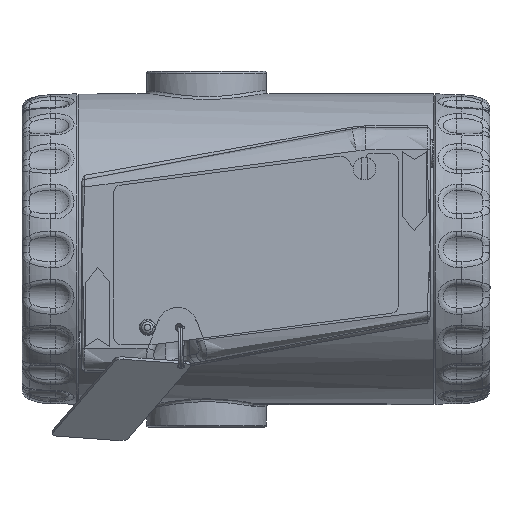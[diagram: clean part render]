
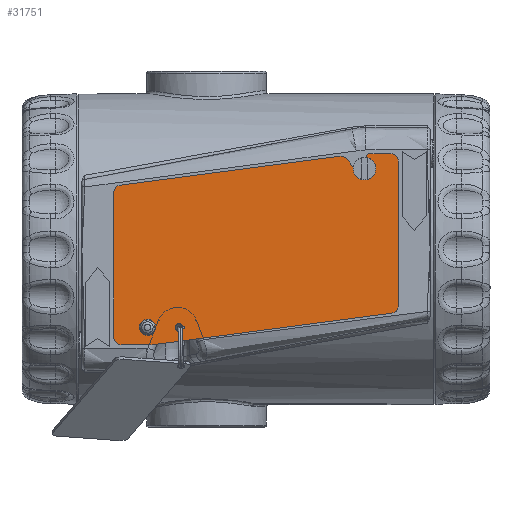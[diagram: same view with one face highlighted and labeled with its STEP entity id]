
A CAD part, left-side view. The second image highlights one B-rep face of the part: STEP entity #31751.
In plain terms, the highlighted planar face has unit normal (-1, 0, 0) as drawn and (0, 0, 1) by its records, which use the part's own axes.
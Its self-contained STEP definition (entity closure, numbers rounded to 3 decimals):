
#2472=FACE_BOUND('',#10376,.T.);
#2473=FACE_BOUND('',#10377,.T.);
#2994=PLANE('',#35796);
#4463=LINE('',#74232,#5973);
#4467=LINE('',#74244,#5977);
#4471=LINE('',#74256,#5981);
#4475=LINE('',#74268,#5985);
#4479=LINE('',#74280,#5989);
#4482=LINE('',#74286,#5992);
#4486=LINE('',#74298,#5996);
#4490=LINE('',#74309,#6000);
#5973=VECTOR('',#44333,10.);
#5977=VECTOR('',#44345,10.);
#5981=VECTOR('',#44357,10.);
#5985=VECTOR('',#44369,10.);
#5989=VECTOR('',#44381,10.);
#5992=VECTOR('',#44386,10.);
#5996=VECTOR('',#44398,10.);
#6000=VECTOR('',#44410,10.);
#8355=FACE_OUTER_BOUND('',#10375,.T.);
#10375=EDGE_LOOP('',(#29394,#29395,#29396,#29397,#29398,#29399,#29400,#29401,
#29402,#29403,#29404,#29405,#29406,#29407,#29408));
#10376=EDGE_LOOP('',(#29409));
#10377=EDGE_LOOP('',(#29410));
#12411=CIRCLE('',#35762,1.35);
#12413=CIRCLE('',#35765,1.);
#12414=CIRCLE('',#35767,2.);
#12416=CIRCLE('',#35771,2.);
#12418=CIRCLE('',#35775,1.);
#12420=CIRCLE('',#35779,2.);
#12422=CIRCLE('',#35783,2.);
#12424=CIRCLE('',#35788,2.);
#12426=CIRCLE('',#35792,2.);
#15296=VERTEX_POINT('',#74212);
#15298=VERTEX_POINT('',#74218);
#15299=VERTEX_POINT('',#74222);
#15300=VERTEX_POINT('',#74223);
#15303=VERTEX_POINT('',#74231);
#15305=VERTEX_POINT('',#74237);
#15307=VERTEX_POINT('',#74243);
#15309=VERTEX_POINT('',#74249);
#15311=VERTEX_POINT('',#74255);
#15313=VERTEX_POINT('',#74261);
#15315=VERTEX_POINT('',#74267);
#15317=VERTEX_POINT('',#74273);
#15319=VERTEX_POINT('',#74279);
#15321=VERTEX_POINT('',#74285);
#15323=VERTEX_POINT('',#74291);
#15325=VERTEX_POINT('',#74297);
#15327=VERTEX_POINT('',#74303);
#19986=EDGE_CURVE('',#15296,#15296,#12411,.T.);
#19989=EDGE_CURVE('',#15298,#15298,#12413,.T.);
#19990=EDGE_CURVE('',#15299,#15300,#12414,.T.);
#19994=EDGE_CURVE('',#15300,#15303,#4463,.T.);
#19997=EDGE_CURVE('',#15303,#15305,#12416,.T.);
#20000=EDGE_CURVE('',#15305,#15307,#4467,.T.);
#20003=EDGE_CURVE('',#15307,#15309,#12418,.T.);
#20006=EDGE_CURVE('',#15309,#15311,#4471,.T.);
#20009=EDGE_CURVE('',#15311,#15313,#12420,.T.);
#20012=EDGE_CURVE('',#15313,#15315,#4475,.T.);
#20015=EDGE_CURVE('',#15315,#15317,#12422,.T.);
#20018=EDGE_CURVE('',#15317,#15319,#4479,.T.);
#20021=EDGE_CURVE('',#15319,#15321,#4482,.T.);
#20024=EDGE_CURVE('',#15321,#15323,#12424,.T.);
#20027=EDGE_CURVE('',#15323,#15325,#4486,.T.);
#20030=EDGE_CURVE('',#15325,#15327,#12426,.T.);
#20033=EDGE_CURVE('',#15327,#15299,#4490,.T.);
#29394=ORIENTED_EDGE('',*,*,#19990,.F.);
#29395=ORIENTED_EDGE('',*,*,#20033,.F.);
#29396=ORIENTED_EDGE('',*,*,#20030,.F.);
#29397=ORIENTED_EDGE('',*,*,#20027,.F.);
#29398=ORIENTED_EDGE('',*,*,#20024,.F.);
#29399=ORIENTED_EDGE('',*,*,#20021,.F.);
#29400=ORIENTED_EDGE('',*,*,#20018,.F.);
#29401=ORIENTED_EDGE('',*,*,#20015,.F.);
#29402=ORIENTED_EDGE('',*,*,#20012,.F.);
#29403=ORIENTED_EDGE('',*,*,#20009,.F.);
#29404=ORIENTED_EDGE('',*,*,#20006,.F.);
#29405=ORIENTED_EDGE('',*,*,#20003,.F.);
#29406=ORIENTED_EDGE('',*,*,#20000,.F.);
#29407=ORIENTED_EDGE('',*,*,#19997,.F.);
#29408=ORIENTED_EDGE('',*,*,#19994,.F.);
#29409=ORIENTED_EDGE('',*,*,#19986,.T.);
#29410=ORIENTED_EDGE('',*,*,#19989,.T.);
#31751=ADVANCED_FACE('',(#8355,#2472,#2473),#2994,.T.);
#35762=AXIS2_PLACEMENT_3D('',#74214,#44314,#44315);
#35765=AXIS2_PLACEMENT_3D('',#74220,#44321,#44322);
#35767=AXIS2_PLACEMENT_3D('',#74224,#44325,#44326);
#35771=AXIS2_PLACEMENT_3D('',#74238,#44338,#44339);
#35775=AXIS2_PLACEMENT_3D('',#74250,#44350,#44351);
#35779=AXIS2_PLACEMENT_3D('',#74262,#44362,#44363);
#35783=AXIS2_PLACEMENT_3D('',#74274,#44374,#44375);
#35788=AXIS2_PLACEMENT_3D('',#74292,#44391,#44392);
#35792=AXIS2_PLACEMENT_3D('',#74304,#44403,#44404);
#35796=AXIS2_PLACEMENT_3D('',#74312,#44414,#44415);
#44314=DIRECTION('center_axis',(0.,0.,-1.));
#44315=DIRECTION('ref_axis',(-1.,0.,0.));
#44321=DIRECTION('center_axis',(0.,0.,-1.));
#44322=DIRECTION('ref_axis',(-1.,0.,0.));
#44325=DIRECTION('center_axis',(0.,0.,-1.));
#44326=DIRECTION('ref_axis',(0.766,0.643,0.));
#44333=DIRECTION('',(0.643,-0.766,0.));
#44338=DIRECTION('center_axis',(0.,0.,1.));
#44339=DIRECTION('ref_axis',(0.766,0.643,0.));
#44345=DIRECTION('',(-0.643,0.766,0.));
#44350=DIRECTION('center_axis',(0.,0.,-1.));
#44351=DIRECTION('ref_axis',(0.,1.,0.));
#44357=DIRECTION('',(1.,0.,0.));
#44362=DIRECTION('center_axis',(0.,0.,-1.));
#44363=DIRECTION('ref_axis',(1.,0.,0.));
#44369=DIRECTION('',(0.,-1.,0.));
#44374=DIRECTION('center_axis',(0.,0.,-1.));
#44375=DIRECTION('ref_axis',(0.131,-0.991,0.));
#44381=DIRECTION('',(-0.991,-0.131,0.));
#44386=DIRECTION('',(-1.,0.,0.));
#44391=DIRECTION('center_axis',(0.,0.,-1.));
#44392=DIRECTION('ref_axis',(-1.,0.,0.));
#44398=DIRECTION('',(0.,1.,0.));
#44403=DIRECTION('center_axis',(0.,0.,-1.));
#44404=DIRECTION('ref_axis',(-0.131,0.991,0.));
#44410=DIRECTION('',(0.991,0.131,0.));
#44414=DIRECTION('center_axis',(0.,0.,1.));
#44415=DIRECTION('ref_axis',(1.,0.,0.));
#74212=CARTESIAN_POINT('',(10.35,4.599,0.7));
#74214=CARTESIAN_POINT('Origin',(9.,4.599,0.7));
#74218=CARTESIAN_POINT('',(18.4,4.599,0.7));
#74220=CARTESIAN_POINT('Origin',(17.4,4.599,0.7));
#74222=CARTESIAN_POINT('',(60.389,50.327,0.7));
#74223=CARTESIAN_POINT('',(62.182,49.63,0.7));
#74224=CARTESIAN_POINT('Origin',(60.65,48.344,0.7));
#74231=CARTESIAN_POINT('',(65.468,45.714,0.7));
#74232=CARTESIAN_POINT('',(65.468,45.714,0.7));
#74237=CARTESIAN_POINT('',(68.532,48.286,0.7));
#74238=CARTESIAN_POINT('Origin',(67.,47.,0.7));
#74243=CARTESIAN_POINT('',(67.633,49.357,0.7));
#74244=CARTESIAN_POINT('',(67.633,49.357,0.7));
#74249=CARTESIAN_POINT('',(68.399,51.,0.7));
#74250=CARTESIAN_POINT('Origin',(68.399,50.,0.7));
#74255=CARTESIAN_POINT('',(74.,51.,0.7));
#74256=CARTESIAN_POINT('',(74.,51.,0.7));
#74261=CARTESIAN_POINT('',(76.,49.,0.7));
#74262=CARTESIAN_POINT('Origin',(74.,49.,0.7));
#74267=CARTESIAN_POINT('',(76.,10.377,0.7));
#74268=CARTESIAN_POINT('',(76.,10.377,0.7));
#74273=CARTESIAN_POINT('',(74.261,8.394,0.7));
#74274=CARTESIAN_POINT('Origin',(74.,10.377,0.7));
#74279=CARTESIAN_POINT('',(10.5,0.,0.7));
#74280=CARTESIAN_POINT('',(10.5,0.,0.7));
#74285=CARTESIAN_POINT('',(2.,0.,0.7));
#74286=CARTESIAN_POINT('',(2.,0.,0.7));
#74291=CARTESIAN_POINT('',(0.,2.,0.7));
#74292=CARTESIAN_POINT('Origin',(2.,2.,0.7));
#74297=CARTESIAN_POINT('',(0.,40.623,0.7));
#74298=CARTESIAN_POINT('',(0.,40.623,0.7));
#74303=CARTESIAN_POINT('',(1.739,42.606,0.7));
#74304=CARTESIAN_POINT('Origin',(2.,40.623,0.7));
#74309=CARTESIAN_POINT('',(60.389,50.327,0.7));
#74312=CARTESIAN_POINT('Origin',(39.077,26.228,0.7));
